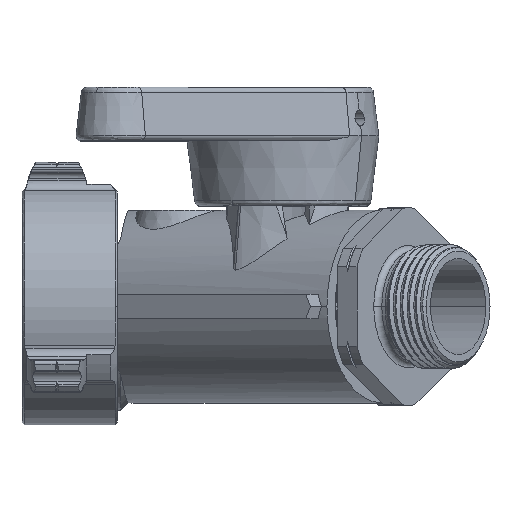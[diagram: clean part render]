
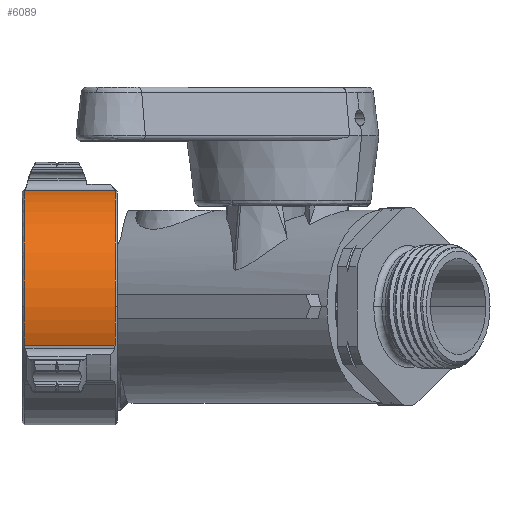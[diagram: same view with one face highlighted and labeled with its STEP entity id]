
A CAD part, top view. The second image highlights one B-rep face of the part: STEP entity #6089.
In plain terms, the highlighted cylindrical face has radius 31.115 mm (diameter 62.23 mm), a partial arc.
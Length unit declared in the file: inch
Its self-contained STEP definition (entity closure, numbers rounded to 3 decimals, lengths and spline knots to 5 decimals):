
#1390 = CARTESIAN_POINT ( 'NONE',  ( -1.15001, 1.208, 0.2034 ) ) ;
#2197 = EDGE_CURVE ( 'NONE', #30867, #40911, #43330, .T. ) ;
#3094 = ORIENTED_EDGE ( 'NONE', *, *, #2197, .T. ) ;
#3285 = ORIENTED_EDGE ( 'NONE', *, *, #33177, .T. ) ;
#3382 = CARTESIAN_POINT ( 'NONE',  ( -1.15001, 0., 0. ) ) ;
#3651 = DIRECTION ( 'NONE',  ( 1., 0., 0. ) ) ;
#4343 = CARTESIAN_POINT ( 'NONE',  ( -0.13501, -0.40133, 1.15739 ) ) ;
#5051 = EDGE_CURVE ( 'NONE', #38445, #12840, #36800, .T. ) ;
#6089 = ADVANCED_FACE ( 'NONE', ( #32693 ), #35214, .T. ) ;
#6576 = CARTESIAN_POINT ( 'NONE',  ( -1.07527, 1.208, 0.2034 ) ) ;
#6653 = VERTEX_POINT ( 'NONE', #43479 ) ;
#8601 = AXIS2_PLACEMENT_3D ( 'NONE', #15052, #33269, #10992 ) ;
#10992 = DIRECTION ( 'NONE',  ( 0., 0., -1. ) ) ;
#12757 = CARTESIAN_POINT ( 'NONE',  ( -0.13501, 1.208, 0.2034 ) ) ;
#12840 = VERTEX_POINT ( 'NONE', #30869 ) ;
#13678 = AXIS2_PLACEMENT_3D ( 'NONE', #36012, #35700, #39439 ) ;
#15052 = CARTESIAN_POINT ( 'NONE',  ( -1.07527, 0., 0. ) ) ;
#16499 = DIRECTION ( 'NONE',  ( 1., 0., 0. ) ) ;
#16848 = EDGE_CURVE ( 'NONE', #6653, #18727, #18378, .T. ) ;
#17208 = DIRECTION ( 'NONE',  ( -1., 0., 0. ) ) ;
#17323 = DIRECTION ( 'NONE',  ( 0., 0., -1. ) ) ;
#18378 = CIRCLE ( 'NONE', #33771, 1.225 ) ;
#18727 = VERTEX_POINT ( 'NONE', #12757 ) ;
#19330 = VECTOR ( 'NONE', #16499, 39.37008 ) ;
#21180 = VECTOR ( 'NONE', #3651, 39.37008 ) ;
#21375 = ORIENTED_EDGE ( 'NONE', *, *, #38449, .T. ) ;
#21519 = ORIENTED_EDGE ( 'NONE', *, *, #27194, .F. ) ;
#24268 = DIRECTION ( 'NONE',  ( 0., 0., 1. ) ) ;
#24359 = DIRECTION ( 'NONE',  ( 0., 0., 1. ) ) ;
#24428 = CARTESIAN_POINT ( 'NONE',  ( -0.13501, 0., 0. ) ) ;
#25895 = CARTESIAN_POINT ( 'NONE',  ( -1.15001, -0.40133, 1.15739 ) ) ;
#26610 = EDGE_LOOP ( 'NONE', ( #3094, #3285, #43037, #21519, #45576, #21375 ) ) ;
#27194 = EDGE_CURVE ( 'NONE', #38445, #18727, #32724, .T. ) ;
#30185 = CIRCLE ( 'NONE', #43813, 1.225 ) ;
#30867 = VERTEX_POINT ( 'NONE', #37213 ) ;
#30869 = CARTESIAN_POINT ( 'NONE',  ( -1.07527, 0., 1.225 ) ) ;
#32693 = FACE_OUTER_BOUND ( 'NONE', #26610, .T. ) ;
#32724 = LINE ( 'NONE', #1390, #19330 ) ;
#33177 = EDGE_CURVE ( 'NONE', #40911, #6653, #30185, .T. ) ;
#33269 = DIRECTION ( 'NONE',  ( 1., 0., 0. ) ) ;
#33771 = AXIS2_PLACEMENT_3D ( 'NONE', #47309, #17208, #24359 ) ;
#34478 = AXIS2_PLACEMENT_3D ( 'NONE', #3382, #39309, #17323 ) ;
#35214 = CYLINDRICAL_SURFACE ( 'NONE', #34478, 1.225 ) ;
#35700 = DIRECTION ( 'NONE',  ( 1., 0., 0. ) ) ;
#36012 = CARTESIAN_POINT ( 'NONE',  ( -1.07527, 0., 0. ) ) ;
#36800 = CIRCLE ( 'NONE', #8601, 1.225 ) ;
#37213 = CARTESIAN_POINT ( 'NONE',  ( -1.07527, -0.40133, 1.15739 ) ) ;
#38445 = VERTEX_POINT ( 'NONE', #6576 ) ;
#38449 = EDGE_CURVE ( 'NONE', #12840, #30867, #42871, .T. ) ;
#39309 = DIRECTION ( 'NONE',  ( 1., 0., 0. ) ) ;
#39439 = DIRECTION ( 'NONE',  ( 0., 0., -1. ) ) ;
#40911 = VERTEX_POINT ( 'NONE', #4343 ) ;
#42702 = DIRECTION ( 'NONE',  ( -1., 0., 0. ) ) ;
#42871 = CIRCLE ( 'NONE', #13678, 1.225 ) ;
#43037 = ORIENTED_EDGE ( 'NONE', *, *, #16848, .T. ) ;
#43330 = LINE ( 'NONE', #25895, #21180 ) ;
#43479 = CARTESIAN_POINT ( 'NONE',  ( -0.13501, 0., 1.225 ) ) ;
#43813 = AXIS2_PLACEMENT_3D ( 'NONE', #24428, #42702, #24268 ) ;
#45576 = ORIENTED_EDGE ( 'NONE', *, *, #5051, .T. ) ;
#47309 = CARTESIAN_POINT ( 'NONE',  ( -0.13501, 0., 0. ) ) ;
